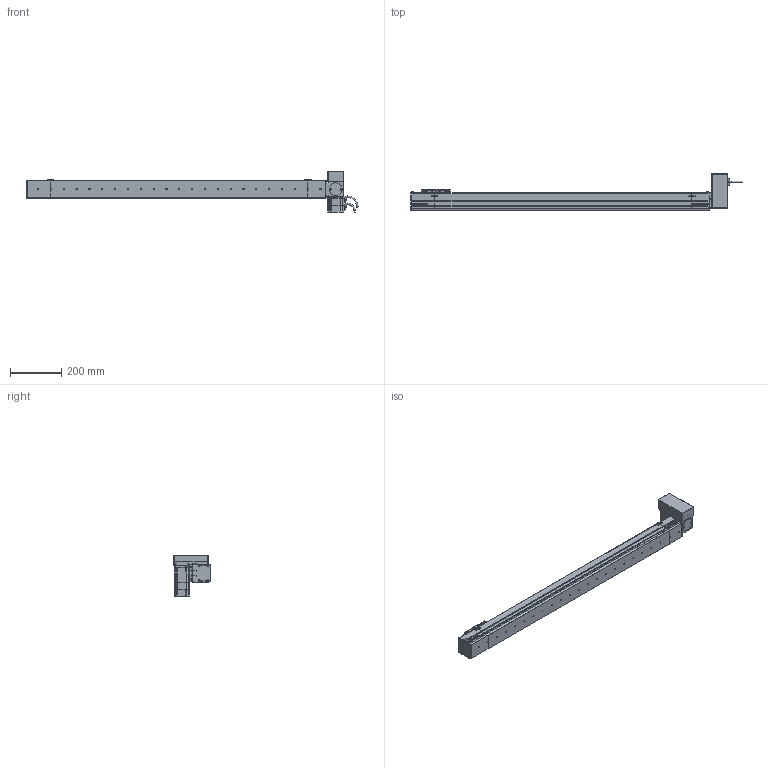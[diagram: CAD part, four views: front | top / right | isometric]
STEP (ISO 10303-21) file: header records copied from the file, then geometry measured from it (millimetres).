
FILE_DESCRIPTION (( 'STEP AP214' ), '1' );
FILE_NAME ('S07 CBN LT S1000.STEP', '2010-06-29T10:17:16', ( 'Conseil Régional Haute-Normandie' ), ( 'Conseil Régional Haute-Normandie' ), 'SwSTEP 2.0', 'SolidWorks 2010', '' );
FILE_SCHEMA (( 'AUTOMOTIVE_DESIGN' ));
Length unit declared in the file: millimetre
Products named in the file (31): Couvercle LT_Default; Support Moteur LT_Default; Rondelle de Serrage LT_Default; Cache Support Moteur LT_Default; plaque de serrage LT_Default; 60BLDC90A-640_Default; vis M5 L8_Default; support chariot_Default; chariot_Default; Chariot S07_Default; vis M5 L15_Default; Corp Tail_Default; Tail S07 Tail_Default; Couvercle S07 S1000_Default; plaque de serrage Tail_Default; Plaque de bout Tail_Default; Couvercle Tail_Default; Corp S07 S1000_Default; VisM3_Default; P1_Default; Conecteur2 60BLDC_Default; P2 90A_Default; P3 90A_Default; Conecteur 60BLDC_Default; Axe 60BLDC_Default; P4_Default; S07 CBN LT S1000; Corp LT_Default; Plaque de bout LT_Default; Head LT_Default
Assembly tree (71 placements, depth 4):
  S07 CBN LT S1000
    Corp S07 S1000_Default
      Couvercle S07 S1000_Default
      Corp S07 S1000_Default
    Head LT_Default
      vis M5 L15_Default  x16
      Rondelle de Serrage LT_Default  x3
      Cache Support Moteur LT_Default
      Support Moteur LT_Default
      plaque de serrage LT_Default
      Couvercle LT_Default
      Corp LT_Default
      60BLDC90A-640_Default
        VisM3_Default  x12
        Conecteur 60BLDC_Default
        Axe 60BLDC_Default
        Conecteur2 60BLDC_Default
        P1_Default
        P4_Default
        P3 90A_Default
        P2 90A_Default
      Plaque de bout LT_Default
    Chariot S07_Default
      support chariot_Default
      chariot_Default
      vis M5 L8_Default  x8
    Tail S07 Tail_Default
      vis M5 L15_Default  x6
      Plaque de bout Tail_Default
      plaque de serrage Tail_Default
      Couvercle Tail_Default
      Corp Tail_Default
Bounding box: 1293.2 x 141 x 162 mm (x, y, z)
Volume: 6115479.5 mm3; surface area: 761227.5 mm2
Topology: 108 solids, 108 shells, 3910 faces, 9626 edges, 6196 vertices
Faces by surface type: plane 2256, bspline 756, cylinder 687, torus 112, cone 95, sphere 4
Entity records: 153833 total; most frequent: CARTESIAN_POINT 79669, ORIENTED_EDGE 14772, DIRECTION 11059, EDGE_CURVE 7386, VERTEX_POINT 4881, LINE 4785, VECTOR 4785, EDGE_LOOP 3173
